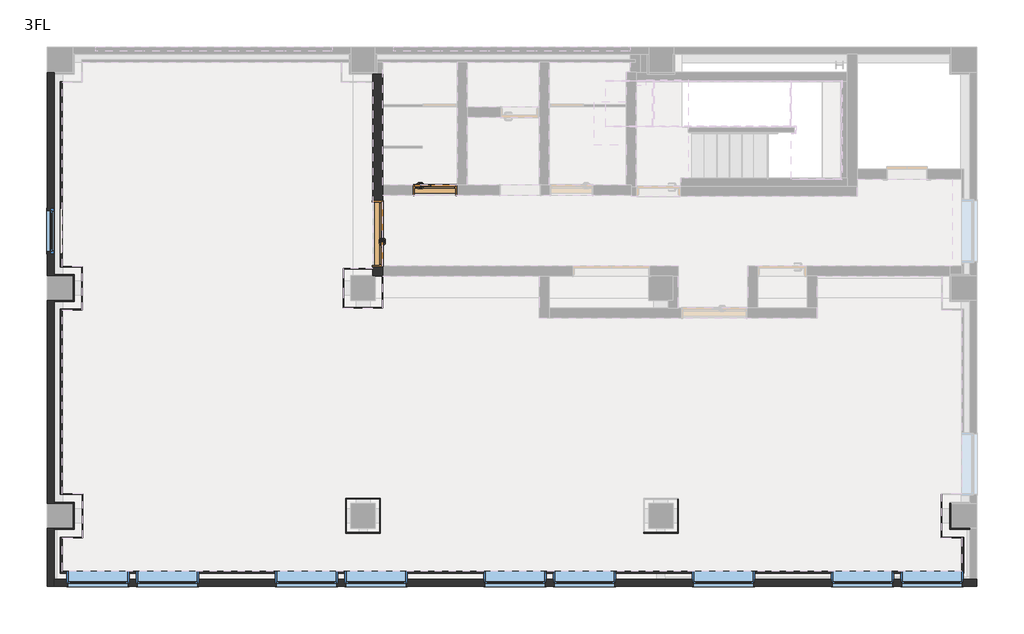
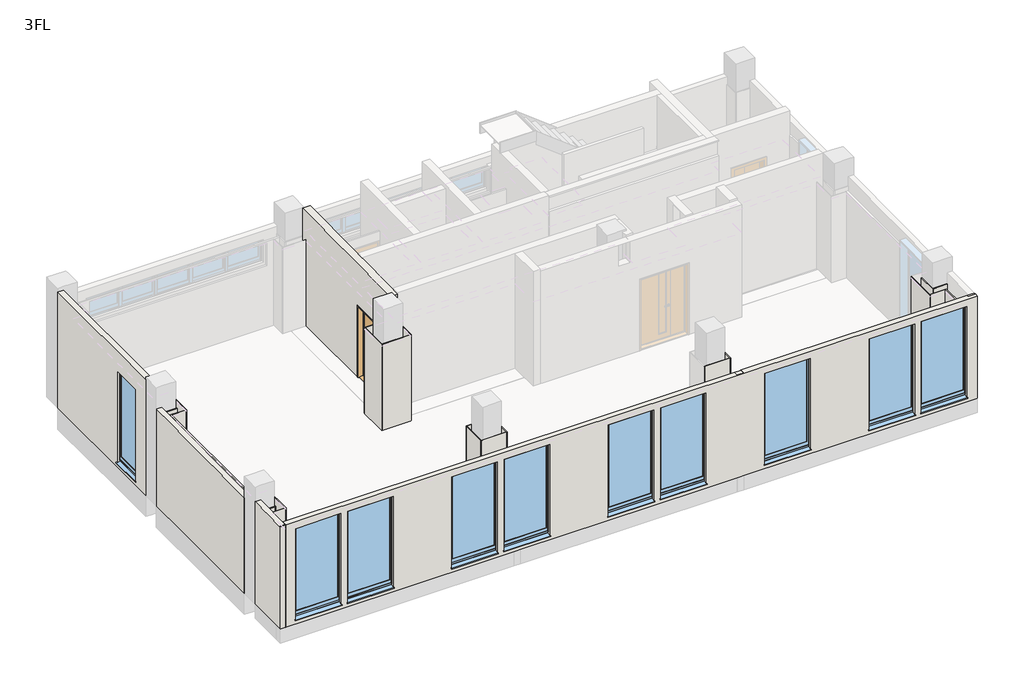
# One storey, part 1 of 4: 34 walls, 10 windows, 2 doors.
"""IFC4 building model written with IfcOpenShell, lengths in millimetres."""

from ifc_helpers import new_model, si_unit, frame, origin, place, context, project, spatial, polyline, outline, extrude, faceted_brep, transform, mapped, element, save
from components import door_c7ba6d99, door_a8025d8c, window_becbf3bb, window_02fdaeb4

model = new_model("IFC4")

# Units and contexts
model_context = context("Model", 3, world=origin())
ifc_project = project(units=[si_unit("LENGTHUNIT", "METRE", prefix="MILLI")], contexts=[model_context])

# Site, building, storey
site = spatial("IfcSite", under=ifc_project)
building = spatial("IfcBuilding", under=site)
storey = spatial("IfcBuildingStorey", under=building, Name="3FL", Elevation=6700.0)

# Doors
placement = place(None, origin())
door_shape = door_c7ba6d99(model_context)
element("IfcDoor", 1, ObjectType="140_片開扉_スリットガラリ付 : SD9_H2000W800", at=placement, inside=storey, context=model_context, shape_type="MappedRepresentation", body=[
    mapped(door_shape, transform((7540.0, 6565.5, 6700.0), x_axis=(1.0, 0.0, 0.0), y_axis=(0.0, 1.0, 0.0), z_axis=(0.0, 0.0, 1.0))),
])
door_2_shape = door_a8025d8c(model_context)
element("IfcDoor", 2, ObjectType="C_親子扉_スリット窓付_パネル : SD8_W1250XH2000", at=placement, inside=storey, context=model_context, shape_type="MappedRepresentation", body=[
    mapped(door_2_shape, transform((6390.0, 5687.5, 6700.0), x_axis=(0.0, 1.0, 0.0), y_axis=(-1.0, 0.0, 0.0), z_axis=(0.0, 0.0, 1.0))),
])

# Walls
element("IfcWall", 3, ObjectType="•_RC120+押出法ポリスチレンフォーム1種 t25", at=placement, inside=storey, context=model_context, shape_type="Brep", body=[
    faceted_brep([(-270.0, 4340.0, 6550.0), (-270.0, 250.0, 6550.0), (-270.0, 250.0, 9266.0848683), (-270.0, 4340.0, 9307.9360311), (-125.0, 250.0, 6550.0), (-125.0, 274.9999201, 6550.0), (-125.0, 4314.9999543, 6550.0), (-125.0, 4340.0, 6550.0), (-125.0, 4340.0, 9150.0), (-125.0, 4340.0, 9307.9360311), (-125.0, 250.0, 9266.0848683), (-125.0, 250.0, 9150.0)], [[[0, 1, 2, 3]], [[4, 5, 6, 7, 8, 9, 10, 11]], [[0, 7, 6, 5, 4, 1]], [[7, 0, 3, 9, 8]], [[1, 4, 11, 10, 2]], [[3, 2, 10, 9]]]),
    faceted_brep([(-270.0, -250.0, 6550.0), (-270.0, -1242.7, 6550.0), (-270.0, -1420.0, 6550.0), (-270.0, -1420.0, 9460.0), (-270.0, -1406.0137522, 9460.0), (-270.0, -1405.9027414, 9449.1512175), (-270.0, -250.0, 9460.9790595), (-125.0, -1420.0, 6550.0), (-125.0, -1275.0, 6550.0), (-125.0, -275.0000858, 6550.0), (-125.0, -250.0, 6550.0), (-125.0, -250.0, 9150.0), (-125.0, -250.0, 9460.9790595), (-125.0, -1405.9027414, 9449.1512175), (-125.0, -1406.0137522, 9460.0), (-125.0, -1420.0, 9460.0)], [[[0, 1, 2, 3, 4, 5, 6]], [[7, 8, 9, 10, 11, 12, 13, 14, 15]], [[7, 2, 1, 0, 10, 9, 8]], [[2, 7, 15, 3]], [[10, 0, 6, 12, 11]], [[13, 5, 4, 14]], [[5, 13, 12, 6]], [[4, 3, 15, 14]]]),
    faceted_brep([(-270.0, 8930.0, 9850.0), (-270.0, 8930.0, 6550.0), (-270.0, 4840.0, 6550.0), (-270.0, 4840.0, 9850.0), (-270.0, 5330.0, 6675.0), (-270.0, 6150.0, 6675.0), (-270.0, 6150.0, 6730.0), (-270.0, 6150.0, 9260.0), (-270.0, 5330.0, 9260.0), (-270.0, 5330.0, 6730.0), (-125.0, 8930.0, 6550.0), (-125.0, 8930.0, 9150.0), (-125.0, 8930.0, 9850.0), (-125.0, 4840.0, 9850.0), (-125.0, 4840.0, 9150.0), (-125.0, 4840.0, 6550.0), (-125.0, 4865.0, 6550.0), (-125.0, 8905.000056, 6550.0), (-125.0, 6200.0, 9310.0), (-125.0, 6200.0, 6745.0), (-125.0, 5280.0, 6745.0), (-125.0, 5280.0, 9310.0), (-140.0, 8930.0, 9850.0), (-140.0, 4840.0, 9850.0), (-210.0, 6200.0, 9310.0), (-210.0, 6200.0, 6675.0), (-140.0, 6200.0, 6675.0), (-140.0, 6200.0, 6745.0), (-140.0, 5280.0, 6745.0), (-140.0, 5280.0, 6675.0), (-210.0, 5280.0, 6675.0), (-210.0, 5280.0, 9310.0), (-210.0, 6150.0, 6675.0), (-210.0, 5330.0, 6675.0), (-210.0, 5330.0, 9260.0), (-210.0, 6150.0, 9260.0)], [[[0, 1, 2, 3], [4, 5, 6, 7, 8, 9]], [[10, 11, 12, 13, 14, 15, 16, 17], [18, 19, 20, 21]], [[1, 10, 17, 16, 15, 2]], [[12, 22, 0, 3, 23, 13]], [[24, 25, 26, 27, 19, 18]], [[28, 29, 30, 31, 21, 20]], [[27, 28, 20, 19]], [[31, 24, 18, 21]], [[26, 25, 32, 5, 4, 33, 30, 29]], [[25, 24, 31, 30, 33, 34, 35, 32]], [[27, 26, 29, 28]], [[5, 32, 35, 7, 6]], [[33, 4, 9, 8, 34]], [[35, 34, 8, 7]], [[12, 11, 10, 1, 0, 22]], [[15, 14, 13, 23, 3, 2]]]),
])
element("IfcWall", 4, ObjectType="•_RC120+押出法ポリスチレンフォーム1種 t25", at=placement, inside=storey, context=model_context, shape_type="Brep", body=[
    faceted_brep([(-125.0, -1420.0, 6550.0), (6000.0, -1420.0, 6550.0), (6180.0, -1420.0, 6550.0), (12000.0, -1420.0, 6550.0), (12180.0, -1420.0, 6550.0), (18450.0, -1420.0, 6550.0), (18450.0, -1420.0, 9460.0), (11961.9000006, -1420.0, 9460.0), (5987.1460725, -1420.0, 9460.0), (-125.0, -1420.0, 9460.0), (1360.0, -1420.0, 6675.0), (140.0, -1420.0, 6675.0), (140.0, -1420.0, 6730.0), (140.0, -1420.0, 9260.0), (1360.0, -1420.0, 9260.0), (1360.0, -1420.0, 6730.0), (2760.0, -1420.0, 6675.0), (1540.0, -1420.0, 6675.0), (1540.0, -1420.0, 9260.0), (2760.0, -1420.0, 9260.0), (5560.0, -1420.0, 6675.0), (4340.0, -1420.0, 6675.0), (4340.0, -1420.0, 9260.0), (5560.0, -1420.0, 9260.0), (6960.0, -1420.0, 6675.0), (5740.0, -1420.0, 6675.0), (5740.0, -1420.0, 9260.0), (6960.0, -1420.0, 9260.0), (9760.0, -1420.0, 6675.0), (8540.0, -1420.0, 6675.0), (8540.0, -1420.0, 9260.0), (9760.0, -1420.0, 9260.0), (11160.0, -1420.0, 6675.0), (9940.0, -1420.0, 6675.0), (9940.0, -1420.0, 9260.0), (11160.0, -1420.0, 9260.0), (16760.04, -1420.0, 6675.0), (15540.04, -1420.0, 6675.0), (15540.04, -1420.0, 9260.0), (16760.04, -1420.0, 9260.0), (18159.9997717, -1420.0, 6675.0), (16939.9997717, -1420.0, 6675.0), (16939.9997717, -1420.0, 9260.0), (18159.9997717, -1420.0, 9260.0), (13960.0, -1420.0, 6675.0), (12740.0, -1420.0, 6675.0), (12740.0, -1420.0, 9260.0), (13960.0, -1420.0, 9260.0), (18450.0, -1275.0, 6550.0), (18305.0, -1275.0, 6550.0), (-125.0, -1275.0, 6550.0), (-125.0, -1275.0, 9460.0), (12000.0, -1275.0, 9460.0), (12000.0, -1275.0, 9450.3844841), (12180.0, -1275.0, 9450.3844841), (12180.0, -1275.0, 9460.0), (18250.0, -1275.0, 9460.0), (18250.0, -1275.0, 9451.1960208), (18450.0, -1275.0, 9451.1960208), (1380.0, -1275.0, 9280.0), (120.0, -1275.0, 9280.0), (120.0, -1275.0, 6675.0), (1380.0, -1275.0, 6675.0), (1520.0, -1275.0, 9280.0), (1520.0, -1275.0, 6675.0), (2780.0, -1275.0, 6675.0), (2780.0, -1275.0, 9280.0), (4320.0, -1275.0, 9280.0), (4320.0, -1275.0, 6675.0), (5580.0, -1275.0, 6675.0), (5580.0, -1275.0, 9280.0), (5720.0, -1275.0, 9280.0), (5720.0, -1275.0, 6675.0), (6980.0, -1275.0, 6675.0), (6980.0, -1275.0, 9280.0), (8520.0, -1275.0, 9280.0), (8520.0, -1275.0, 6675.0), (9780.0, -1275.0, 6675.0), (9780.0, -1275.0, 9280.0), (9920.0, -1275.0, 9280.0), (9920.0, -1275.0, 6675.0), (11180.0, -1275.0, 6675.0), (11180.0, -1275.0, 9280.0), (15520.04, -1275.0, 9280.0), (15520.04, -1275.0, 6675.0), (16780.04, -1275.0, 6675.0), (16780.04, -1275.0, 9280.0), (16919.9997717, -1275.0, 9280.0), (16919.9997717, -1275.0, 6675.0), (18179.9997717, -1275.0, 6675.0), (18179.9997717, -1275.0, 9280.0), (12720.0, -1275.0, 9280.0), (12720.0, -1275.0, 6675.0), (13980.0, -1275.0, 6675.0), (13980.0, -1275.0, 9280.0), (1380.0, -1360.0, 9280.0), (120.0, -1360.0, 9280.0), (120.0, -1360.0, 6675.0), (1380.0, -1360.0, 6675.0), (140.0, -1360.0, 6675.0), (1360.0, -1360.0, 6675.0), (1360.0, -1360.0, 9260.0), (140.0, -1360.0, 9260.0), (1520.0, -1360.0, 6675.0), (1540.0, -1360.0, 6675.0), (2760.0, -1360.0, 6675.0), (2780.0, -1360.0, 6675.0), (1520.0, -1360.0, 9280.0), (2780.0, -1360.0, 9280.0), (2760.0, -1360.0, 9260.0), (1540.0, -1360.0, 9260.0), (4320.0, -1360.0, 6675.0), (4340.0, -1360.0, 6675.0), (5560.0, -1360.0, 6675.0), (5580.0, -1360.0, 6675.0), (4320.0, -1360.0, 9280.0), (5580.0, -1360.0, 9280.0), (5560.0, -1360.0, 9260.0), (4340.0, -1360.0, 9260.0), (5720.0, -1360.0, 6675.0), (5740.0, -1360.0, 6675.0), (6960.0, -1360.0, 6675.0), (6980.0, -1360.0, 6675.0), (5720.0, -1360.0, 9280.0), (6980.0, -1360.0, 9280.0), (6960.0, -1360.0, 9260.0), (5740.0, -1360.0, 9260.0), (8520.0, -1360.0, 6675.0), (8540.0, -1360.0, 6675.0), (9760.0, -1360.0, 6675.0), (9780.0, -1360.0, 6675.0), (8520.0, -1360.0, 9280.0), (9780.0, -1360.0, 9280.0), (9760.0, -1360.0, 9260.0), (8540.0, -1360.0, 9260.0), (9920.0, -1360.0, 6675.0), (9940.0, -1360.0, 6675.0), (11160.0, -1360.0, 6675.0), (11180.0, -1360.0, 6675.0), (9920.0, -1360.0, 9280.0), (11180.0, -1360.0, 9280.0), (11160.0, -1360.0, 9260.0), (9940.0, -1360.0, 9260.0), (15520.04, -1360.0, 6675.0), (15540.04, -1360.0, 6675.0), (16760.04, -1360.0, 6675.0), (16780.04, -1360.0, 6675.0), (15520.04, -1360.0, 9280.0), (16780.04, -1360.0, 9280.0), (16760.04, -1360.0, 9260.0), (15540.04, -1360.0, 9260.0), (16919.9997717, -1360.0, 6675.0), (16939.9997717, -1360.0, 6675.0), (18159.9997717, -1360.0, 6675.0), (18179.9997717, -1360.0, 6675.0), (16919.9997717, -1360.0, 9280.0), (18179.9997717, -1360.0, 9280.0), (18159.9997717, -1360.0, 9260.0), (16939.9997717, -1360.0, 9260.0), (12720.0, -1360.0, 6675.0), (12740.0, -1360.0, 6675.0), (13960.0, -1360.0, 6675.0), (13980.0, -1360.0, 6675.0), (12720.0, -1360.0, 9280.0), (13980.0, -1360.0, 9280.0), (13960.0, -1360.0, 9260.0), (12740.0, -1360.0, 9260.0), (12180.0, -1406.4091607, 9449.2147387), (12000.0, -1406.4091607, 9449.2147387), (12000.0, -1406.5051662, 9460.0), (12180.0, -1406.5051662, 9460.0), (18450.0, -1330.8043055, 9460.0), (18250.0, -1330.8043055, 9460.0), (18450.0, -1330.7112801, 9450.6421976), (18250.0, -1330.7112801, 9450.6421976)], [[[0, 1, 2, 3, 4, 5, 6, 7, 8, 9], [10, 11, 12, 13, 14, 15], [16, 17, 18, 19], [20, 21, 22, 23], [24, 25, 26, 27], [28, 29, 30, 31], [32, 33, 34, 35], [36, 37, 38, 39], [40, 41, 42, 43], [44, 45, 46, 47]], [[48, 49, 50, 51, 52, 53, 54, 55, 56, 57, 58], [59, 60, 61, 62], [63, 64, 65, 66], [67, 68, 69, 70], [71, 72, 73, 74], [75, 76, 77, 78], [79, 80, 81, 82], [83, 84, 85, 86], [87, 88, 89, 90], [91, 92, 93, 94]], [[5, 4, 3, 2, 1, 0, 50, 49, 48]], [[50, 0, 9, 51]], [[95, 96, 60, 59]], [[96, 97, 61, 60]], [[98, 95, 59, 62]], [[99, 11, 10, 100, 98, 62, 61, 97]], [[97, 96, 95, 98, 100, 101, 102, 99]], [[11, 99, 102, 13, 12]], [[100, 10, 15, 14, 101]], [[102, 101, 14, 13]], [[103, 104, 17, 16, 105, 106, 65, 64]], [[103, 107, 108, 106, 105, 109, 110, 104]], [[17, 104, 110, 18]], [[105, 16, 19, 109]], [[110, 109, 19, 18]], [[111, 112, 21, 20, 113, 114, 69, 68]], [[111, 115, 116, 114, 113, 117, 118, 112]], [[21, 112, 118, 22]], [[113, 20, 23, 117]], [[118, 117, 23, 22]], [[119, 120, 25, 24, 121, 122, 73, 72]], [[119, 123, 124, 122, 121, 125, 126, 120]], [[25, 120, 126, 26]], [[121, 24, 27, 125]], [[126, 125, 27, 26]], [[127, 128, 29, 28, 129, 130, 77, 76]], [[127, 131, 132, 130, 129, 133, 134, 128]], [[29, 128, 134, 30]], [[129, 28, 31, 133]], [[134, 133, 31, 30]], [[135, 136, 33, 32, 137, 138, 81, 80]], [[135, 139, 140, 138, 137, 141, 142, 136]], [[33, 136, 142, 34]], [[137, 32, 35, 141]], [[142, 141, 35, 34]], [[143, 144, 37, 36, 145, 146, 85, 84]], [[143, 147, 148, 146, 145, 149, 150, 144]], [[37, 144, 150, 38]], [[145, 36, 39, 149]], [[150, 149, 39, 38]], [[151, 152, 41, 40, 153, 154, 89, 88]], [[151, 155, 156, 154, 153, 157, 158, 152]], [[41, 152, 158, 42]], [[153, 40, 43, 157]], [[158, 157, 43, 42]], [[159, 160, 45, 44, 161, 162, 93, 92]], [[159, 163, 164, 162, 161, 165, 166, 160]], [[45, 160, 166, 46]], [[161, 44, 47, 165]], [[166, 165, 47, 46]], [[167, 168, 169, 170]], [[167, 170, 55, 54]], [[169, 168, 53, 52]], [[168, 167, 54, 53]], [[170, 169, 52, 51, 9, 8, 7, 6, 171, 172, 56, 55]], [[173, 174, 172, 171]], [[172, 174, 57, 56]], [[174, 173, 58, 57]], [[107, 103, 64, 63]], [[106, 108, 66, 65]], [[108, 107, 63, 66]], [[115, 111, 68, 67]], [[114, 116, 70, 69]], [[116, 115, 67, 70]], [[123, 119, 72, 71]], [[122, 124, 74, 73]], [[124, 123, 71, 74]], [[131, 127, 76, 75]], [[130, 132, 78, 77]], [[132, 131, 75, 78]], [[139, 135, 80, 79]], [[138, 140, 82, 81]], [[140, 139, 79, 82]], [[147, 143, 84, 83]], [[146, 148, 86, 85]], [[148, 147, 83, 86]], [[155, 151, 88, 87]], [[154, 156, 90, 89]], [[156, 155, 87, 90]], [[163, 159, 92, 91]], [[162, 164, 94, 93]], [[164, 163, 91, 94]], [[5, 48, 58, 173, 171, 6]]]),
])
element("IfcWall", 5, ObjectType="•RC30+12.5", at=placement, inside=storey, context=model_context, shape_type="Brep", body=[
    faceted_brep([(-10.0001232, -1160.0000822, 6550.0), (18190.0000006, -1160.0000822, 6550.0), (18190.0000006, -1160.0000822, 6745.0), (16919.9997717, -1160.0000822, 6745.0), (16919.9997717, -1160.0000822, 9150.0), (16780.04, -1160.0000822, 9150.0), (16780.04, -1160.0000822, 6745.0), (15520.04, -1160.0000822, 6745.0), (15520.04, -1160.0000822, 9150.0), (14010.0, -1160.0000822, 9150.0), (14010.0, -1160.0000822, 6745.0), (12690.0, -1160.0000822, 6745.0), (12690.0, -1160.0000822, 9150.0), (11180.0, -1160.0000822, 9150.0), (11180.0, -1160.0000822, 6745.0), (9920.0, -1160.0000822, 6745.0), (9920.0, -1160.0000822, 9150.0), (9780.0, -1160.0000822, 9150.0), (9780.0, -1160.0000822, 6745.0), (8520.0, -1160.0000822, 6745.0), (8520.0, -1160.0000822, 9150.0), (6980.0, -1160.0000822, 9150.0), (6980.0, -1160.0000822, 6745.0), (5720.0, -1160.0000822, 6745.0), (5720.0, -1160.0000822, 9150.0), (5580.0, -1160.0000822, 9150.0), (5580.0, -1160.0000822, 6745.0), (4320.0, -1160.0000822, 6745.0), (4320.0, -1160.0000822, 9150.0), (2780.0, -1160.0000822, 9150.0), (2780.0, -1160.0000822, 6745.0), (1520.0, -1160.0000822, 6745.0), (1520.0, -1160.0000822, 9150.0), (1380.0, -1160.0000822, 9150.0), (1380.0, -1160.0000822, 6745.0), (120.0, -1160.0000822, 6745.0), (120.0, -1160.0000822, 9150.0), (-10.0001232, -1160.0000822, 9150.0), (18190.0000006, -1117.5000822, 6550.0), (18147.5000006, -1117.5000822, 6550.0), (32.4998768, -1117.5000822, 6550.0), (-10.0001232, -1117.5000822, 6550.0), (-10.0001232, -1117.5000822, 9150.0), (32.4998768, -1117.5000822, 9150.0), (120.0, -1117.5000822, 9150.0), (120.0, -1117.5000822, 6745.0), (1380.0, -1117.5000822, 6745.0), (1380.0, -1117.5000822, 9150.0), (1520.0, -1117.5000822, 9150.0), (1520.0, -1117.5000822, 6745.0), (2780.0, -1117.5000822, 6745.0), (2780.0, -1117.5000822, 9150.0), (4320.0, -1117.5000822, 9150.0), (4320.0, -1117.5000822, 6745.0), (5580.0, -1117.5000822, 6745.0), (5580.0, -1117.5000822, 9150.0), (5720.0, -1117.5000822, 9150.0), (5720.0, -1117.5000822, 6745.0), (6980.0, -1117.5000822, 6745.0), (6980.0, -1117.5000822, 9150.0), (8520.0, -1117.5000822, 9150.0), (8520.0, -1117.5000822, 6745.0), (9780.0, -1117.5000822, 6745.0), (9780.0, -1117.5000822, 9150.0), (9920.0, -1117.5000822, 9150.0), (9920.0, -1117.5000822, 6745.0), (11180.0, -1117.5000822, 6745.0), (11180.0, -1117.5000822, 9150.0), (12690.0, -1117.5000822, 9150.0), (12690.0, -1117.5000822, 6745.0), (14010.0, -1117.5000822, 6745.0), (14010.0, -1117.5000822, 9150.0), (15520.04, -1117.5000822, 9150.0), (15520.04, -1117.5000822, 6745.0), (16780.04, -1117.5000822, 6745.0), (16780.04, -1117.5000822, 9150.0), (16919.9997717, -1117.5000822, 9150.0), (16919.9997717, -1117.5000822, 6745.0), (18190.0000006, -1117.5000822, 6745.0)], [[[0, 1, 2, 3, 4, 5, 6, 7, 8, 9, 10, 11, 12, 13, 14, 15, 16, 17, 18, 19, 20, 21, 22, 23, 24, 25, 26, 27, 28, 29, 30, 31, 32, 33, 34, 35, 36, 37]], [[38, 39, 40, 41, 42, 43, 44, 45, 46, 47, 48, 49, 50, 51, 52, 53, 54, 55, 56, 57, 58, 59, 60, 61, 62, 63, 64, 65, 66, 67, 68, 69, 70, 71, 72, 73, 74, 75, 76, 77, 78]], [[1, 0, 41, 40, 39, 38]], [[42, 37, 36, 44, 43]], [[47, 33, 32, 48]], [[51, 29, 28, 52]], [[55, 25, 24, 56]], [[59, 21, 20, 60]], [[63, 17, 16, 64]], [[67, 13, 12, 68]], [[8, 72, 71, 9]], [[75, 5, 4, 76]], [[0, 37, 42, 41]], [[34, 46, 45, 35]], [[35, 45, 44, 36]], [[46, 34, 33, 47]], [[30, 50, 49, 31]], [[31, 49, 48, 32]], [[50, 30, 29, 51]], [[26, 54, 53, 27]], [[27, 53, 52, 28]], [[54, 26, 25, 55]], [[22, 58, 57, 23]], [[23, 57, 56, 24]], [[58, 22, 21, 59]], [[18, 62, 61, 19]], [[19, 61, 60, 20]], [[62, 18, 17, 63]], [[14, 66, 65, 15]], [[15, 65, 64, 16]], [[66, 14, 13, 67]], [[6, 74, 73, 7]], [[7, 73, 72, 8]], [[74, 6, 5, 75]], [[77, 3, 2, 78]], [[3, 77, 76, 4]], [[10, 70, 69, 11]], [[11, 69, 68, 12]], [[70, 10, 9, 71]], [[1, 38, 78, 2]]]),
])
element("IfcWall", 6, ObjectType="•RC30+12.5", at=placement, inside=storey, context=model_context, shape_type="Brep", body=[
    faceted_brep([(-10.0, 4164.0, 6550.0), (-10.0, 429.9996399, 6550.0), (-10.0, 429.9996399, 9150.0), (-10.0, 4164.0, 9150.0), (32.5, 4164.0, 6550.0), (32.5, 4164.0, 9150.0), (32.5, 4151.5, 9150.0), (32.5, 442.4996399, 9150.0), (32.5, 429.9996399, 9150.0), (32.5, 429.9996399, 6550.0), (32.5, 442.4996399, 6550.0), (32.5, 4151.5, 6550.0)], [[[0, 1, 2, 3]], [[4, 5, 6, 7, 8, 9, 10, 11]], [[1, 0, 4, 11, 10, 9]], [[3, 2, 8, 7, 6, 5]], [[0, 3, 5, 4]], [[2, 1, 9, 8]]]),
])
element("IfcWall", 7, ObjectType="•RC30+12.5", at=placement, inside=storey, context=model_context, shape_type="Brep", body=[
    faceted_brep([(-10.0001232, -429.9999706, 6550.0), (-10.0001232, -1117.5000822, 6550.0), (-10.0001232, -1117.5000822, 9150.0), (-10.0001232, -429.9999706, 9150.0), (32.4998768, -429.9999706, 6550.0), (32.4998768, -429.9999706, 9150.0), (32.4998768, -442.4999706, 9150.0), (32.4998768, -1117.5000822, 9150.0), (32.4998768, -1117.5000822, 6550.0), (32.4998768, -442.4999706, 6550.0)], [[[0, 1, 2, 3]], [[4, 5, 6, 7, 8, 9]], [[1, 0, 4, 9, 8]], [[3, 2, 7, 6, 5]], [[2, 1, 8, 7]], [[0, 3, 5, 4]]]),
])
element("IfcWall", 8, ObjectType="•RC30+12.5", at=placement, inside=storey, context=model_context, shape_type="Brep", body=[
    faceted_brep([(32.4999974, 5016.0, 6550.0), (32.4999974, 5028.5, 6550.0), (32.4999974, 8741.5, 6550.0), (32.4999974, 8754.0, 6550.0), (32.4999974, 8754.0, 9150.0), (32.4999974, 8741.5, 9150.0), (32.4999974, 6200.0, 9150.0), (32.4999974, 6200.0, 6745.0), (32.4999974, 5280.0, 6745.0), (32.4999974, 5280.0, 9150.0), (32.4999974, 5028.5, 9150.0), (32.4999974, 5016.0, 9150.0), (-10.0000026, 8754.0, 6550.0), (-10.0000026, 5016.0, 6550.0), (-10.0000026, 5016.0, 9150.0), (-10.0000026, 5280.0, 9150.0), (-10.0000026, 5280.0, 6745.0), (-10.0000026, 6200.0, 6745.0), (-10.0000026, 6200.0, 9150.0), (-10.0000026, 8754.0, 9150.0)], [[[0, 1, 2, 3, 4, 5, 6, 7, 8, 9, 10, 11]], [[12, 13, 14, 15, 16, 17, 18, 19]], [[3, 2, 1, 0, 13, 12]], [[14, 11, 10, 9, 15]], [[4, 19, 18, 6, 5]], [[0, 11, 14, 13]], [[4, 3, 12, 19]], [[7, 17, 16, 8]], [[8, 16, 15, 9]], [[17, 7, 6, 18]]]),
])
element("IfcWall", 9, ObjectType="•RC30+12.5", at=placement, inside=storey, context=model_context, shape_type="Brep", body=[
    faceted_brep([(18190.0000006, -1117.5000822, 6550.0), (18190.0000006, -430.0001201, 6550.0), (18190.0000006, -430.0001201, 9150.0), (18190.0000006, -1117.5000822, 9150.0), (18190.0000006, -1117.5000822, 6745.0), (18147.5000006, -1117.5000822, 6550.0), (18147.5000006, -1117.5000822, 9150.0), (18147.5000006, -442.5001201, 9150.0), (18147.5000006, -430.0001201, 9150.0), (18147.5000006, -430.0001201, 6550.0), (18147.5000006, -442.5001201, 6550.0)], [[[0, 1, 2, 3, 4]], [[5, 6, 7, 8, 9, 10]], [[1, 0, 5, 10, 9]], [[3, 2, 8, 7, 6]], [[2, 1, 9, 8]], [[0, 4, 3, 6, 5]]]),
])
element("IfcWall", 10, ObjectType="•t=25mm", at=placement, inside=storey, context=model_context, shape_type="Brep", body=[
    faceted_brep([(-125.0, 249.9999201, 6550.0), (250.0000575, 249.9999201, 6550.0), (275.0000575, 249.9999201, 6550.0), (275.0000575, 249.9999201, 9150.0), (250.0000575, 249.9999201, 9150.0), (-125.0, 249.9999201, 9150.0), (-125.0, 274.9999201, 6550.0), (-125.0, 274.9999201, 9150.0), (275.0000575, 274.9999201, 9150.0), (275.0000575, 274.9999201, 6550.0)], [[[0, 1, 2, 3, 4, 5]], [[6, 7, 8, 9]], [[2, 1, 0, 6, 9]], [[5, 4, 3, 8, 7]], [[0, 5, 7, 6]], [[3, 2, 9, 8]]]),
])
element("IfcWall", 11, ObjectType="•t=25mm", at=placement, inside=storey, context=model_context, shape_type="Brep", body=[
    faceted_brep([(250.0000575, 249.9999201, 6550.0), (250.0000575, -250.0000858, 6550.0), (250.0000575, -275.0000858, 6550.0), (250.0000575, -275.0000858, 9150.0), (250.0000575, -250.0000858, 9150.0), (250.0000575, 249.9999201, 9150.0), (275.0000575, 249.9999201, 6550.0), (275.0000575, 249.9999201, 9150.0), (275.0000575, -275.0000858, 9150.0), (275.0000575, -275.0000858, 6550.0)], [[[0, 1, 2, 3, 4, 5]], [[6, 7, 8, 9]], [[2, 1, 0, 6, 9]], [[5, 4, 3, 8, 7]], [[0, 5, 7, 6]], [[3, 2, 9, 8]]]),
])
element("IfcWall", 12, ObjectType="•t=25mm", at=placement, inside=storey, context=model_context, shape_type="SweptSolid", body=[
    extrude(outline(polyline([(-125.0, -250.0000858), (250.0000575, -250.0000858), (250.0000575, -275.0000858), (-125.0, -275.0000858), (-125.0, -250.0000858)])), frame((0.0, 0.0, 6550.0), z_axis=(0.0, 0.0, 1.0), x_axis=(1.0, 0.0, 0.0)), (0.0, 0.0, 1.0), 2600.0),
])
element("IfcWall", 13, ObjectType="•t=25mm", at=placement, inside=storey, context=model_context, shape_type="Brep", body=[
    faceted_brep([(-125.0, 4314.9999543, 6550.0), (275.0, 4314.9999543, 6550.0), (275.0, 4314.9999543, 9150.0), (-125.0, 4314.9999543, 9150.0), (-125.0, 4339.9999543, 6550.0), (-125.0, 4339.9999543, 9150.0), (250.0, 4339.9999543, 9150.0), (275.0, 4339.9999543, 9150.0), (275.0, 4339.9999543, 6550.0), (250.0, 4339.9999543, 6550.0)], [[[0, 1, 2, 3]], [[4, 5, 6, 7, 8, 9]], [[1, 0, 4, 9, 8]], [[3, 2, 7, 6, 5]], [[0, 3, 5, 4]], [[2, 1, 8, 7]]]),
])
element("IfcWall", 14, ObjectType="•t=25mm", at=placement, inside=storey, context=model_context, shape_type="Brep", body=[
    faceted_brep([(275.0, 4339.9999543, 6550.0), (275.0, 4865.0, 6550.0), (275.0, 4865.0, 9150.0), (275.0, 4339.9999543, 9150.0), (250.0, 4339.9999543, 6550.0), (250.0, 4339.9999543, 9150.0), (250.0, 4840.0, 9150.0), (250.0, 4865.0, 9150.0), (250.0, 4865.0, 6550.0), (250.0, 4840.0, 6550.0)], [[[0, 1, 2, 3]], [[4, 5, 6, 7, 8, 9]], [[1, 0, 4, 9, 8]], [[3, 2, 7, 6, 5]], [[0, 3, 5, 4]], [[2, 1, 8, 7]]]),
])
element("IfcWall", 15, ObjectType="•t=25mm", at=placement, inside=storey, context=model_context, shape_type="SweptSolid", body=[
    extrude(outline(polyline([(-125.0, 4865.0), (250.0, 4865.0), (250.0, 4840.0), (-125.0, 4840.0), (-125.0, 4865.0)])), frame((0.0, 0.0, 6550.0), z_axis=(0.0, 0.0, 1.0), x_axis=(1.0, 0.0, 0.0)), (0.0, 0.0, 1.0), 2600.0),
])
element("IfcWall", 16, ObjectType="•t=25mm", at=placement, inside=storey, context=model_context, shape_type="Brep", body=[
    faceted_brep([(17904.999971, 249.9999009, 6550.0), (17904.999971, -275.0000644, 6550.0), (17904.999971, -275.0000644, 9150.0), (17904.999971, 249.9999009, 9150.0), (17929.999971, 249.9999009, 6550.0), (17929.999971, 249.9999009, 9150.0), (17929.999971, -250.0000644, 9150.0), (17929.999971, -275.0000644, 9150.0), (17929.999971, -275.0000644, 6550.0), (17929.999971, -250.0000644, 6550.0)], [[[0, 1, 2, 3]], [[4, 5, 6, 7, 8, 9]], [[1, 0, 4, 9, 8]], [[3, 2, 7, 6, 5]], [[0, 3, 5, 4]], [[2, 1, 8, 7]]]),
])
element("IfcWall", 17, ObjectType="•t=25mm", at=placement, inside=storey, context=model_context, shape_type="SweptSolid", body=[
    extrude(outline(polyline([(18305.0, -275.0000644), (17929.999971, -275.0000644), (17929.999971, -250.0000644), (18305.0, -250.0000644), (18305.0, -275.0000644)])), frame((0.0, 0.0, 6550.0), z_axis=(0.0, 0.0, 1.0), x_axis=(1.0, 0.0, 0.0)), (0.0, 0.0, 1.0), 2600.0),
])
element("IfcWall", 18, ObjectType="•PB12.5", at=placement, inside=storey, context=model_context, shape_type="Brep", body=[
    faceted_brep([(32.4999974, 5016.0, 6550.0), (426.0, 5016.0, 6550.0), (438.5, 5016.0, 6550.0), (438.5, 5016.0, 9150.0), (426.0, 5016.0, 9150.0), (32.4999974, 5016.0, 9150.0), (32.4999974, 5028.5, 6550.0), (32.4999974, 5028.5, 9150.0), (438.5, 5028.5, 9150.0), (438.5, 5028.5, 6550.0)], [[[0, 1, 2, 3, 4, 5]], [[6, 7, 8, 9]], [[2, 1, 0, 6, 9]], [[5, 4, 3, 8, 7]], [[0, 5, 7, 6]], [[3, 2, 9, 8]]]),
])
element("IfcWall", 19, ObjectType="•PB12.5", at=placement, inside=storey, context=model_context, shape_type="Brep", body=[
    faceted_brep([(426.0, 5016.0, 6550.0), (426.0, 4164.0, 6550.0), (426.0, 4151.5, 6550.0), (426.0, 4151.5, 9150.0), (426.0, 4164.0, 9150.0), (426.0, 5016.0, 9150.0), (438.5, 5016.0, 6550.0), (438.5, 5016.0, 9150.0), (438.5, 4151.5, 9150.0), (438.5, 4151.5, 6550.0)], [[[0, 1, 2, 3, 4, 5]], [[6, 7, 8, 9]], [[2, 1, 0, 6, 9]], [[5, 4, 3, 8, 7]], [[0, 5, 7, 6]], [[3, 2, 9, 8]]]),
])
element("IfcWall", 20, ObjectType="•PB12.5", at=placement, inside=storey, context=model_context, shape_type="SweptSolid", body=[
    extrude(outline(polyline([(32.5, 4164.0), (426.0, 4164.0), (426.0, 4151.5), (32.5, 4151.5), (32.5, 4164.0)])), frame((0.0, 0.0, 6550.0), z_axis=(0.0, 0.0, 1.0), x_axis=(1.0, 0.0, 0.0)), (0.0, 0.0, 1.0), 2600.0),
])
element("IfcWall", 21, ObjectType="•PB12.5", at=placement, inside=storey, context=model_context, shape_type="Brep", body=[
    faceted_brep([(32.5, 429.9996399, 6550.0), (436.0, 429.9996399, 6550.0), (448.5, 429.9996399, 6550.0), (448.5, 429.9996399, 9150.0), (436.0, 429.9996399, 9150.0), (32.5, 429.9996399, 9150.0), (32.5, 442.4996399, 6550.0), (32.5, 442.4996399, 9150.0), (448.5, 442.4996399, 9150.0), (448.5, 442.4996399, 6550.0)], [[[0, 1, 2, 3, 4, 5]], [[6, 7, 8, 9]], [[2, 1, 0, 6, 9]], [[5, 4, 3, 8, 7]], [[0, 5, 7, 6]], [[3, 2, 9, 8]]]),
])
element("IfcWall", 22, ObjectType="•PB12.5", at=placement, inside=storey, context=model_context, shape_type="Brep", body=[
    faceted_brep([(436.0, 429.9996399, 6550.0), (436.0, -429.9999706, 6550.0), (436.0, -442.4999706, 6550.0), (436.0, -442.4999706, 9150.0), (436.0, -429.9999706, 9150.0), (436.0, 429.9996399, 9150.0), (448.5, 429.9996399, 6550.0), (448.5, 429.9996399, 9150.0), (448.5, -442.4999706, 9150.0), (448.5, -442.4999706, 6550.0)], [[[0, 1, 2, 3, 4, 5]], [[6, 7, 8, 9]], [[2, 1, 0, 6, 9]], [[5, 4, 3, 8, 7]], [[0, 5, 7, 6]], [[3, 2, 9, 8]]]),
])
element("IfcWall", 23, ObjectType="•PB12.5", at=placement, inside=storey, context=model_context, shape_type="SweptSolid", body=[
    extrude(outline(polyline([(32.4998768, -429.9999706), (436.0, -429.9999706), (436.0, -442.4999706), (32.4998768, -442.4999706), (32.4998768, -429.9999706)])), frame((0.0, 0.0, 6550.0), z_axis=(0.0, 0.0, 1.0), x_axis=(1.0, 0.0, 0.0)), (0.0, 0.0, 1.0), 2600.0),
])
element("IfcWall", 24, ObjectType="•PB12.5", at=placement, inside=storey, context=model_context, shape_type="Brep", body=[
    faceted_brep([(17731.5010313, 429.999689, 6550.0), (17731.5010313, -442.5001201, 6550.0), (17731.5010313, -442.5001201, 9150.0), (17731.5010313, 429.999689, 9150.0), (17744.0010313, 429.999689, 6550.0), (17744.0010313, 429.999689, 9150.0), (17744.0010313, -430.0001201, 9150.0), (17744.0010313, -442.5001201, 9150.0), (17744.0010313, -442.5001201, 6550.0), (17744.0010313, -430.0001201, 6550.0)], [[[0, 1, 2, 3]], [[4, 5, 6, 7, 8, 9]], [[1, 0, 4, 9, 8]], [[3, 2, 7, 6, 5]], [[0, 3, 5, 4]], [[2, 1, 8, 7]]]),
])
element("IfcWall", 25, ObjectType="•PB12.5", at=placement, inside=storey, context=model_context, shape_type="SweptSolid", body=[
    extrude(outline(polyline([(18147.5000006, -442.5001201), (17744.0010313, -442.5001201), (17744.0010313, -430.0001201), (18147.5000006, -430.0001201), (18147.5000006, -442.5001201)])), frame((0.0, 0.0, 6550.0), z_axis=(0.0, 0.0, 1.0), x_axis=(1.0, 0.0, 0.0)), (0.0, 0.0, 1.0), 2600.0),
])
element("IfcWall", 26, ObjectType="•RC200", at=placement, inside=storey, context=model_context, shape_type="Brep", body=[
    faceted_brep([(6290.0, 8905.0000823, 6690.0), (6290.0, 8754.0, 6690.0), (6290.0, 8741.5, 6690.0), (6290.0, 6352.5, 6690.0), (6290.0, 6352.5, 8740.0), (6290.0, 5022.5, 8740.0), (6290.0, 5022.5, 6690.0), (6290.0, 4988.5, 6690.0), (6290.0, 4976.0, 6690.0), (6290.0, 4840.0, 6690.0), (6290.0, 4840.0, 9912.7493245), (6290.0, 8905.0000823, 9953.9003588), (6490.0, 6352.5, 6690.0), (6490.0, 6465.5, 6690.0), (6490.0, 6665.5, 6690.0), (6490.0, 8905.0000823, 6690.0), (6490.0, 8905.0000823, 9953.9003588), (6490.0, 4830.0, 9912.648092), (6490.0, 4830.0, 9150.0), (6490.0, 4830.0, 6690.0), (6490.0, 5022.5, 6690.0), (6490.0, 5022.5, 8740.0), (6490.0, 6352.5, 8740.0), (6364.9999033, 8905.0000823, 6690.0), (6340.0, 4840.0, 6690.0), (6340.0, 4840.0, 9912.7493245), (6340.0, 4830.0, 6690.0), (6340.0, 4830.0, 9912.648092), (6477.4999994, 4830.0, 6690.0)], [[[0, 1, 2, 3, 4, 5, 6, 7, 8, 9, 10, 11]], [[12, 13, 14, 15, 16, 17, 18, 19, 20, 21, 22]], [[15, 23, 0, 11, 16]], [[9, 24, 25, 10]], [[24, 26, 27, 25]], [[26, 28, 19, 18, 17, 27]], [[3, 2, 1, 0, 23, 15, 14, 13, 12]], [[24, 9, 8, 7, 6, 20, 19, 28, 26]], [[5, 21, 20, 6]], [[22, 4, 3, 12]], [[5, 4, 22, 21]], [[11, 10, 25, 27, 17, 16]]]),
])
element("IfcWall", 27, ObjectType="•PB12.5", at=placement, inside=storey, context=model_context, shape_type="Brep", body=[
    faceted_brep([(5687.4999426, 4988.5, 9150.0), (6290.0, 4988.5, 9150.0), (6290.0, 4988.5, 6690.0), (5890.0, 4988.5, 6690.0), (5890.0, 4988.5, 6550.0), (5687.4999426, 4988.5, 6550.0), (6290.0, 4976.0, 9150.0), (5699.9999426, 4976.0, 9150.0), (5687.4999426, 4976.0, 9150.0), (5687.4999426, 4976.0, 6550.0), (5699.9999426, 4976.0, 6550.0), (5890.0, 4976.0, 6550.0), (5890.0, 4976.0, 6690.0), (6290.0, 4976.0, 6690.0)], [[[0, 1, 2, 3, 4, 5]], [[6, 7, 8, 9, 10, 11, 12, 13]], [[9, 5, 4, 11, 10]], [[1, 0, 8, 7, 6]], [[1, 6, 13, 2]], [[0, 5, 9, 8]], [[12, 3, 2, 13]], [[3, 12, 11, 4]]]),
])
element("IfcWall", 28, ObjectType="•PB12.5", at=placement, inside=storey, context=model_context, shape_type="Brep", body=[
    faceted_brep([(5687.4999426, 4976.0, 6550.0), (5687.4999426, 4187.5000823, 6550.0), (5687.4999426, 4187.5000823, 9150.0), (5687.4999426, 4976.0, 9150.0), (5699.9999426, 4976.0, 6550.0), (5699.9999426, 4976.0, 9150.0), (5699.9999426, 4200.0000823, 9150.0), (5699.9999426, 4187.5000823, 9150.0), (5699.9999426, 4187.5000823, 6550.0), (5699.9999426, 4200.0000823, 6550.0)], [[[0, 1, 2, 3]], [[4, 5, 6, 7, 8, 9]], [[1, 0, 4, 9, 8]], [[3, 2, 7, 6, 5]], [[0, 3, 5, 4]], [[2, 1, 8, 7]]]),
])
element("IfcWall", 29, ObjectType="•PB12.5", at=placement, inside=storey, context=model_context, shape_type="Brep", body=[
    faceted_brep([(5699.9999426, 4187.5000823, 6550.0), (6489.9999994, 4187.5000823, 6550.0), (6489.9999994, 4187.5000823, 9150.0), (5699.9999426, 4187.5000823, 9150.0), (5699.9999426, 4200.0000823, 6550.0), (5699.9999426, 4200.0000823, 9150.0), (6477.4999994, 4200.0000823, 9150.0), (6489.9999994, 4200.0000823, 9150.0), (6489.9999994, 4200.0000823, 6550.0), (6477.4999994, 4200.0000823, 6550.0)], [[[0, 1, 2, 3]], [[4, 5, 6, 7, 8, 9]], [[1, 0, 4, 9, 8]], [[3, 2, 7, 6, 5]], [[0, 3, 5, 4]], [[2, 1, 8, 7]]]),
])
element("IfcWall", 30, ObjectType="•PB12.5", at=placement, inside=storey, context=model_context, shape_type="Brep", body=[
    faceted_brep([(6489.9999994, 4830.0, 9150.0), (6489.9999994, 4200.0000823, 9150.0), (6489.9999994, 4200.0000823, 6550.0), (6489.9999994, 4390.0, 6550.0), (6489.9999994, 4390.0, 6690.0), (6489.9999994, 4830.0, 6690.0), (6489.9999994, 4830.0, 6700.0), (6477.4999994, 4200.0000823, 9150.0), (6477.4999994, 4830.0, 9150.0), (6477.4999994, 4830.0, 6690.0), (6477.4999994, 4390.0, 6690.0), (6477.4999994, 4390.0, 6550.0), (6477.4999994, 4200.0000823, 6550.0)], [[[0, 1, 2, 3, 4, 5, 6]], [[7, 8, 9, 10, 11, 12]], [[2, 12, 11, 3]], [[1, 0, 8, 7]], [[2, 1, 7, 12]], [[8, 0, 6, 5, 9]], [[4, 10, 9, 5]], [[10, 4, 3, 11]]]),
])
element("IfcWall", 31, ObjectType="•PB12.5", at=placement, inside=storey, context=model_context, shape_type="Brep", body=[
    faceted_brep([(5740.0, 337.5, 6550.0), (5752.5, 337.5, 6550.0), (6427.5, 337.5, 6550.0), (6440.0, 337.5, 6550.0), (6440.0, 337.5, 9150.0), (6427.5, 337.5, 9150.0), (5752.5, 337.5, 9150.0), (5740.0, 337.5, 9150.0), (5740.0, 350.0, 6550.0), (5740.0, 350.0, 9150.0), (6440.0, 350.0, 9150.0), (6440.0, 350.0, 6550.0)], [[[0, 1, 2, 3, 4, 5, 6, 7]], [[8, 9, 10, 11]], [[3, 2, 1, 0, 8, 11]], [[7, 6, 5, 4, 10, 9]], [[4, 3, 11, 10]], [[0, 7, 9, 8]]]),
])
element("IfcWall", 32, ObjectType="•PB12.5", at=placement, inside=storey, context=model_context, shape_type="Brep", body=[
    faceted_brep([(6427.5, 337.5, 6550.0), (6427.5, -337.5, 6550.0), (6427.5, -350.0, 6550.0), (6427.5, -350.0, 9150.0), (6427.5, -337.5, 9150.0), (6427.5, 337.5, 9150.0), (6440.0, 337.5, 6550.0), (6440.0, 337.5, 9150.0), (6440.0, -350.0, 9150.0), (6440.0, -350.0, 6550.0)], [[[0, 1, 2, 3, 4, 5]], [[6, 7, 8, 9]], [[2, 1, 0, 6, 9]], [[5, 4, 3, 8, 7]], [[0, 5, 7, 6]], [[3, 2, 9, 8]]]),
])
element("IfcWall", 33, ObjectType="•PB12.5", at=placement, inside=storey, context=model_context, shape_type="Brep", body=[
    faceted_brep([(6427.5, -337.5, 6550.0), (5752.5, -337.5, 6550.0), (5740.0, -337.5, 6550.0), (5740.0, -337.5, 9150.0), (5752.5, -337.5, 9150.0), (6427.5, -337.5, 9150.0), (6427.5, -350.0, 6550.0), (6427.5, -350.0, 9150.0), (5740.0, -350.0, 9150.0), (5740.0, -350.0, 6550.0)], [[[0, 1, 2, 3, 4, 5]], [[6, 7, 8, 9]], [[2, 1, 0, 6, 9]], [[5, 4, 3, 8, 7]], [[0, 5, 7, 6]], [[3, 2, 9, 8]]]),
])
element("IfcWall", 34, ObjectType="•PB12.5", at=placement, inside=storey, context=model_context, shape_type="SweptSolid", body=[
    extrude(outline(polyline([(5752.5, 337.5), (5752.5, -337.5), (5740.0, -337.5), (5740.0, 337.5), (5752.5, 337.5)])), frame((0.0, 0.0, 6550.0), z_axis=(0.0, 0.0, 1.0), x_axis=(1.0, 0.0, 0.0)), (0.0, 0.0, 1.0), 2600.0),
])
element("IfcWall", 35, ObjectType="•PB12.5", at=placement, inside=storey, context=model_context, shape_type="Brep", body=[
    faceted_brep([(12426.0, 336.0, 6550.0), (12426.0, -336.0, 6550.0), (12426.0, -348.5, 6550.0), (12426.0, -348.5, 9150.0), (12426.0, -336.0, 9150.0), (12426.0, 336.0, 9150.0), (12438.5, 336.0, 6550.0), (12438.5, 336.0, 9150.0), (12438.5, -348.5, 9150.0), (12438.5, -348.5, 6550.0)], [[[0, 1, 2, 3, 4, 5]], [[6, 7, 8, 9]], [[2, 1, 0, 6, 9]], [[5, 4, 3, 8, 7]], [[0, 5, 7, 6]], [[3, 2, 9, 8]]]),
])
element("IfcWall", 36, ObjectType="•PB12.5", at=placement, inside=storey, context=model_context, shape_type="Brep", body=[
    faceted_brep([(12426.0, -336.0, 6550.0), (11754.0, -336.0, 6550.0), (11741.5, -336.0, 6550.0), (11741.5, -336.0, 9150.0), (11754.0, -336.0, 9150.0), (12426.0, -336.0, 9150.0), (12426.0, -348.5, 6550.0), (12426.0, -348.5, 9150.0), (11741.5, -348.5, 9150.0), (11741.5, -348.5, 6550.0)], [[[0, 1, 2, 3, 4, 5]], [[6, 7, 8, 9]], [[2, 1, 0, 6, 9]], [[5, 4, 3, 8, 7]], [[0, 5, 7, 6]], [[3, 2, 9, 8]]]),
])

# Windows
window_shape = window_becbf3bb(model_context)
element("IfcWindow", 37, ObjectType="380_片開窓_01 : AW6-H2470W800", at=placement, inside=storey, context=model_context, shape_type="MappedRepresentation", body=[
    mapped(window_shape, transform((-197.5, 5740.0, 5880.0), x_axis=(0.0, 1.0, 0.0), y_axis=(-1.0, 0.0, 0.0), z_axis=(0.0, 0.0, 1.0))),
])
window_2_shape = window_02fdaeb4(model_context)
element("IfcWindow", 38, ObjectType="380_片開窓_01 : AW5-H2470W1200", at=placement, inside=storey, context=model_context, shape_type="MappedRepresentation", body=[
    mapped(window_2_shape, transform((750.0, -1347.5, 5880.0), x_axis=(-1.0, 0.0, 0.0), y_axis=(0.0, -1.0, 0.0), z_axis=(0.0, 0.0, 1.0))),
])
element("IfcWindow", 39, ObjectType="380_片開窓_01 : AW5-H2470W1200", at=placement, inside=storey, context=model_context, shape_type="MappedRepresentation", body=[
    mapped(window_2_shape, transform((2150.0, -1347.5, 5880.0), x_axis=(-1.0, 0.0, 0.0), y_axis=(0.0, -1.0, 0.0), z_axis=(0.0, 0.0, 1.0))),
])
element("IfcWindow", 40, ObjectType="380_片開窓_01 : AW5-H2470W1200", at=placement, inside=storey, context=model_context, shape_type="MappedRepresentation", body=[
    mapped(window_2_shape, transform((4950.0, -1347.5, 5880.0), x_axis=(-1.0, 0.0, 0.0), y_axis=(0.0, -1.0, 0.0), z_axis=(0.0, 0.0, 1.0))),
])
element("IfcWindow", 41, ObjectType="380_片開窓_01 : AW5-H2470W1200", at=placement, inside=storey, context=model_context, shape_type="MappedRepresentation", body=[
    mapped(window_2_shape, transform((6350.0, -1347.5, 5880.0), x_axis=(-1.0, 0.0, 0.0), y_axis=(0.0, -1.0, 0.0), z_axis=(0.0, 0.0, 1.0))),
])
element("IfcWindow", 42, ObjectType="380_片開窓_01 : AW5-H2470W1200", at=placement, inside=storey, context=model_context, shape_type="MappedRepresentation", body=[
    mapped(window_2_shape, transform((9150.0, -1347.5, 5880.0), x_axis=(-1.0, 0.0, 0.0), y_axis=(0.0, -1.0, 0.0), z_axis=(0.0, 0.0, 1.0))),
])
element("IfcWindow", 43, ObjectType="380_片開窓_01 : AW5-H2470W1200", at=placement, inside=storey, context=model_context, shape_type="MappedRepresentation", body=[
    mapped(window_2_shape, transform((10550.0, -1347.5, 5880.0), x_axis=(-1.0, 0.0, 0.0), y_axis=(0.0, -1.0, 0.0), z_axis=(0.0, 0.0, 1.0))),
])
element("IfcWindow", 44, ObjectType="380_片開窓_01 : AW5-H2470W1200", at=placement, inside=storey, context=model_context, shape_type="MappedRepresentation", body=[
    mapped(window_2_shape, transform((16150.04, -1347.5, 5880.0), x_axis=(-1.0, 0.0, 0.0), y_axis=(0.0, -1.0, 0.0), z_axis=(0.0, 0.0, 1.0))),
])
element("IfcWindow", 45, ObjectType="380_片開窓_01 : AW5-H2470W1200", at=placement, inside=storey, context=model_context, shape_type="MappedRepresentation", body=[
    mapped(window_2_shape, transform((17549.9997717, -1347.5, 5880.0), x_axis=(-1.0, 0.0, 0.0), y_axis=(0.0, -1.0, 0.0), z_axis=(0.0, 0.0, 1.0))),
])
element("IfcWindow", 46, ObjectType="380_片開窓_01 : AW5-H2470W1200", at=placement, inside=storey, context=model_context, shape_type="MappedRepresentation", body=[
    mapped(window_2_shape, transform((13350.0, -1347.5, 5880.0), x_axis=(-1.0, 0.0, 0.0), y_axis=(0.0, -1.0, 0.0), z_axis=(0.0, 0.0, 1.0))),
])

save(model, "model.ifc")
